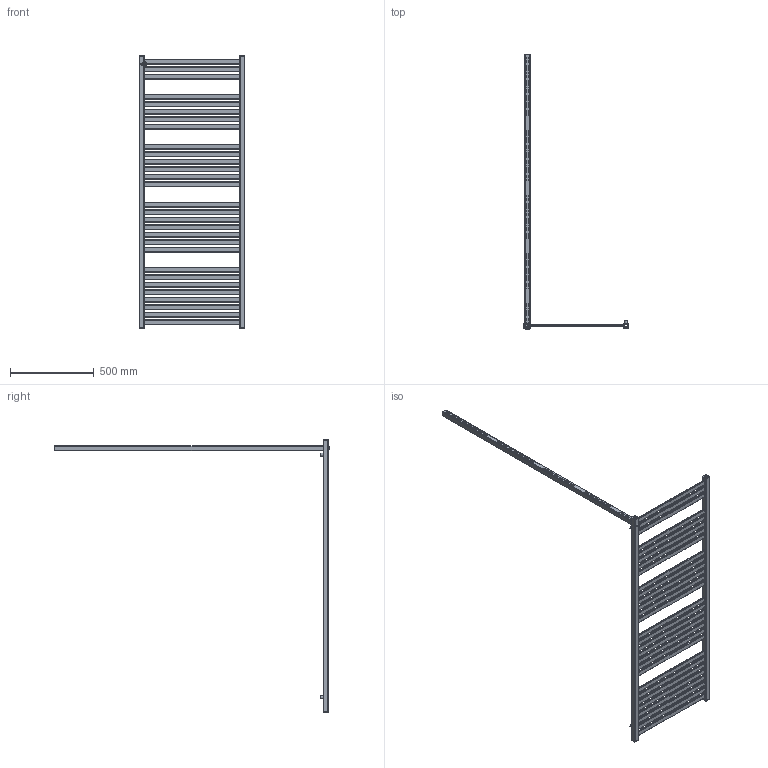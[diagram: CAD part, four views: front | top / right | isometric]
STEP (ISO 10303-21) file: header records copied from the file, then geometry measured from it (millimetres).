
FILE_DESCRIPTION( ( 'Unknown' ), '1' );
FILE_NAME( 'D:/Alplast sp. j/Witryna zespoBu - Projekty/Archiwum/Grzejniki Archiwum/Projekty/STANDARD/AK-EP/AK7-600EP.stp', 'Unknown', ( 'Unknown' ), ( 'Unknown' ), 'PSStep 10.1', 'Unknown', ' ' );
FILE_SCHEMA( ( 'AUTOMOTIVE_DESIGN { 1 0 10303 214 1 1 1 1 }' ) );
Length unit declared in the file: millimetre
Products named in the file (5): Assem1; zaslepka kwadrat otwor; AK7-EPEL; kana³  poziomy 30x10  600; mocowanie
Bounding box: 630 x 1644 x 1630.13 mm (x, y, z)
Volume: 2647573.4 mm3; surface area: 3545684.5 mm2
Topology: 43 solids, 43 shells, 1310 faces, 3642 edges, 2428 vertices
Faces by surface type: plane 748, cylinder 552, torus 10
Full cylindrical faces by diameter (mm): 16 x5, 18 x5, 18.631 x5, 23 x5
Entity records: 12408 total; most frequent: DIRECTION 1784, CARTESIAN_POINT 1732, ORIENTED_EDGE 1676, EDGE_CURVE 838, AXIS2_PLACEMENT_3D 614, VERTEX_POINT 562, LINE 556, VECTOR 556
